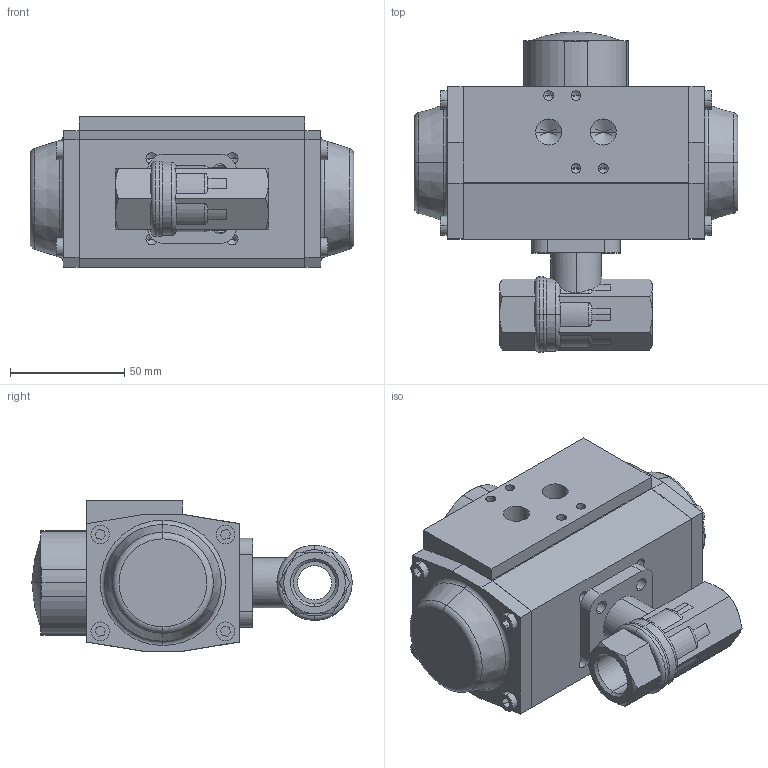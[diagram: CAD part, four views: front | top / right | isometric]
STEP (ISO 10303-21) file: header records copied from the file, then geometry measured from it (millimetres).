
FILE_DESCRIPTION (( 'STEP AP214' ), '1' );
FILE_NAME ('A25-DN15-G1_2+AP1.step', '2011-03-03T09:46:33', ( '' ), ( '' ), 'SwSTEP 2.0', 'SolidWorks 2011', '' );
FILE_SCHEMA (( 'AUTOMOTIVE_DESIGN' ));
Length unit declared in the file: millimetre
Products named in the file (3): AP1_Default<As Machined>; Ballvalve A25-DN15 G1_2; A25-DN15-G1_2+AP1
Assembly tree (2 placements, depth 2):
  A25-DN15-G1_2+AP1
    AP1_Default<As Machined>
    Ballvalve A25-DN15 G1_2
Bounding box: 142 x 140.49 x 66 mm (x, y, z)
Volume: 611631.1 mm3; surface area: 75609.1 mm2
Topology: 5 solids, 5 shells, 335 faces, 825 edges, 509 vertices
Faces by surface type: plane 154, cylinder 101, cone 56, torus 22, sphere 2
Entity records: 11035 total; most frequent: CARTESIAN_POINT 2157, DIRECTION 1662, ORIENTED_EDGE 1578, EDGE_CURVE 789, AXIS2_PLACEMENT_3D 602, VERTEX_POINT 509, LINE 458, VECTOR 458
